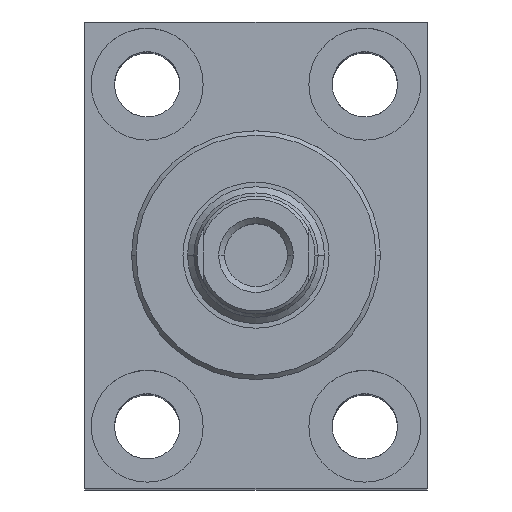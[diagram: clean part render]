
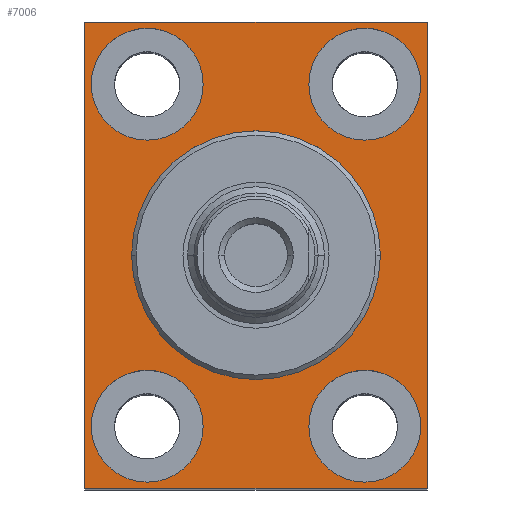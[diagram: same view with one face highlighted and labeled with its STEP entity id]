
A CAD part, top view. The second image highlights one B-rep face of the part: STEP entity #7006.
In plain terms, the highlighted planar face has unit normal (0, 0, 1).
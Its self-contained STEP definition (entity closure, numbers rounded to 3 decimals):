
#27 = DIRECTION ( 'NONE',  ( -1., 0., 0. ) ) ;
#77 = CARTESIAN_POINT ( 'NONE',  ( 17.5, 27.5, -10. ) ) ;
#93 = ORIENTED_EDGE ( 'NONE', *, *, #2408, .T. ) ;
#196 = CARTESIAN_POINT ( 'NONE',  ( 0., 0., -10. ) ) ;
#288 = CIRCLE ( 'NONE', #4810, 20.001 ) ;
#325 = AXIS2_PLACEMENT_3D ( 'NONE', #4547, #904, #1532 ) ;
#331 = PLANE ( 'NONE',  #3445 ) ;
#461 = DIRECTION ( 'NONE',  ( 0., 0., -1. ) ) ;
#817 = FACE_BOUND ( 'NONE', #6355, .T. ) ;
#886 = CARTESIAN_POINT ( 'NONE',  ( -27.5, -37.5, -10. ) ) ;
#895 = DIRECTION ( 'NONE',  ( 0., 0., 1. ) ) ;
#904 = DIRECTION ( 'NONE',  ( 0., 0., -1. ) ) ;
#936 = EDGE_LOOP ( 'NONE', ( #6145, #2790, #3048, #1228 ) ) ;
#945 = EDGE_CURVE ( 'NONE', #5625, #7721, #7642, .T. ) ;
#955 = EDGE_CURVE ( 'NONE', #7721, #7233, #1553, .T. ) ;
#980 = FACE_BOUND ( 'NONE', #2528, .T. ) ;
#1218 = EDGE_CURVE ( 'NONE', #4924, #6770, #288, .T. ) ;
#1228 = ORIENTED_EDGE ( 'NONE', *, *, #1765, .T. ) ;
#1250 = EDGE_LOOP ( 'NONE', ( #93, #6008 ) ) ;
#1290 = VERTEX_POINT ( 'NONE', #4598 ) ;
#1294 = CARTESIAN_POINT ( 'NONE',  ( -26.5, 27.5, -10. ) ) ;
#1382 = DIRECTION ( 'NONE',  ( -1., 0., 0. ) ) ;
#1455 = AXIS2_PLACEMENT_3D ( 'NONE', #1684, #4150, #27 ) ;
#1532 = DIRECTION ( 'NONE',  ( -1., 0., 0. ) ) ;
#1553 = LINE ( 'NONE', #886, #3633 ) ;
#1674 = CARTESIAN_POINT ( 'NONE',  ( -17.5, -27.5, -10. ) ) ;
#1684 = CARTESIAN_POINT ( 'NONE',  ( 17.5, 27.5, -10. ) ) ;
#1747 = CIRCLE ( 'NONE', #325, 9. ) ;
#1765 = EDGE_CURVE ( 'NONE', #2883, #5625, #5133, .T. ) ;
#1851 = DIRECTION ( 'NONE',  ( -1., 0., 0. ) ) ;
#1911 = CARTESIAN_POINT ( 'NONE',  ( 26.5, -27.5, -10. ) ) ;
#2219 = ORIENTED_EDGE ( 'NONE', *, *, #3871, .T. ) ;
#2263 = CIRCLE ( 'NONE', #4200, 9. ) ;
#2367 = CARTESIAN_POINT ( 'NONE',  ( 0., 0., -10. ) ) ;
#2375 = VERTEX_POINT ( 'NONE', #3210 ) ;
#2396 = CARTESIAN_POINT ( 'NONE',  ( -20.001, 0., -10. ) ) ;
#2408 = EDGE_CURVE ( 'NONE', #5052, #3250, #2854, .T. ) ;
#2483 = ORIENTED_EDGE ( 'NONE', *, *, #5969, .T. ) ;
#2528 = EDGE_LOOP ( 'NONE', ( #7717, #3653 ) ) ;
#2669 = CARTESIAN_POINT ( 'NONE',  ( 8.5, 27.5, -10. ) ) ;
#2721 = EDGE_CURVE ( 'NONE', #2375, #5967, #5948, .T. ) ;
#2737 = VECTOR ( 'NONE', #3914, 1000. ) ;
#2790 = ORIENTED_EDGE ( 'NONE', *, *, #955, .T. ) ;
#2807 = CARTESIAN_POINT ( 'NONE',  ( 0., 0., -10. ) ) ;
#2854 = CIRCLE ( 'NONE', #5563, 9. ) ;
#2883 = VERTEX_POINT ( 'NONE', #3389 ) ;
#2908 = CIRCLE ( 'NONE', #4324, 9. ) ;
#3025 = AXIS2_PLACEMENT_3D ( 'NONE', #2367, #6003, #3679 ) ;
#3048 = ORIENTED_EDGE ( 'NONE', *, *, #5438, .T. ) ;
#3119 = VERTEX_POINT ( 'NONE', #1911 ) ;
#3177 = CARTESIAN_POINT ( 'NONE',  ( 27.5, -37.5, -10. ) ) ;
#3210 = CARTESIAN_POINT ( 'NONE',  ( 26.5, 27.5, -10. ) ) ;
#3241 = DIRECTION ( 'NONE',  ( 0., 0., -1. ) ) ;
#3250 = VERTEX_POINT ( 'NONE', #7548 ) ;
#3323 = CARTESIAN_POINT ( 'NONE',  ( -17.5, 27.5, -10. ) ) ;
#3389 = CARTESIAN_POINT ( 'NONE',  ( 27.5, 37.5, -10. ) ) ;
#3401 = CIRCLE ( 'NONE', #4296, 9. ) ;
#3445 = AXIS2_PLACEMENT_3D ( 'NONE', #2807, #895, #3947 ) ;
#3483 = DIRECTION ( 'NONE',  ( 0., -1., 0. ) ) ;
#3587 = CARTESIAN_POINT ( 'NONE',  ( 20.001, 0., -10. ) ) ;
#3633 = VECTOR ( 'NONE', #5820, 1000. ) ;
#3653 = ORIENTED_EDGE ( 'NONE', *, *, #1218, .T. ) ;
#3673 = CARTESIAN_POINT ( 'NONE',  ( 17.5, -27.5, -10. ) ) ;
#3679 = DIRECTION ( 'NONE',  ( -1., 0., 0. ) ) ;
#3871 = EDGE_CURVE ( 'NONE', #4894, #3119, #3401, .T. ) ;
#3914 = DIRECTION ( 'NONE',  ( -1., 0., 0. ) ) ;
#3947 = DIRECTION ( 'NONE',  ( 1., 0., 0. ) ) ;
#3989 = FACE_BOUND ( 'NONE', #7191, .T. ) ;
#4004 = CARTESIAN_POINT ( 'NONE',  ( -26.5, -27.5, -10. ) ) ;
#4150 = DIRECTION ( 'NONE',  ( 0., 0., -1. ) ) ;
#4200 = AXIS2_PLACEMENT_3D ( 'NONE', #1674, #461, #7941 ) ;
#4251 = EDGE_CURVE ( 'NONE', #3119, #4894, #4562, .T. ) ;
#4296 = AXIS2_PLACEMENT_3D ( 'NONE', #6739, #7471, #1382 ) ;
#4303 = DIRECTION ( 'NONE',  ( -1., 0., 0. ) ) ;
#4324 = AXIS2_PLACEMENT_3D ( 'NONE', #77, #3241, #7525 ) ;
#4399 = CARTESIAN_POINT ( 'NONE',  ( -17.5, 27.5, -10. ) ) ;
#4511 = ORIENTED_EDGE ( 'NONE', *, *, #2721, .T. ) ;
#4547 = CARTESIAN_POINT ( 'NONE',  ( -17.5, -27.5, -10. ) ) ;
#4562 = CIRCLE ( 'NONE', #7862, 9. ) ;
#4598 = CARTESIAN_POINT ( 'NONE',  ( -8.5, -27.5, -10. ) ) ;
#4635 = VECTOR ( 'NONE', #3483, 1000. ) ;
#4810 = AXIS2_PLACEMENT_3D ( 'NONE', #196, #7362, #1851 ) ;
#4862 = EDGE_CURVE ( 'NONE', #3250, #5052, #6503, .T. ) ;
#4894 = VERTEX_POINT ( 'NONE', #6964 ) ;
#4924 = VERTEX_POINT ( 'NONE', #3587 ) ;
#4944 = CARTESIAN_POINT ( 'NONE',  ( 27.5, -37.5, -10. ) ) ;
#5052 = VERTEX_POINT ( 'NONE', #1294 ) ;
#5133 = LINE ( 'NONE', #7692, #2737 ) ;
#5407 = ORIENTED_EDGE ( 'NONE', *, *, #4251, .T. ) ;
#5438 = EDGE_CURVE ( 'NONE', #7233, #2883, #7569, .T. ) ;
#5563 = AXIS2_PLACEMENT_3D ( 'NONE', #4399, #6849, #5623 ) ;
#5623 = DIRECTION ( 'NONE',  ( -1., 0., 0. ) ) ;
#5625 = VERTEX_POINT ( 'NONE', #7119 ) ;
#5750 = DIRECTION ( 'NONE',  ( 0., 1., 0. ) ) ;
#5815 = EDGE_LOOP ( 'NONE', ( #6155, #6703 ) ) ;
#5820 = DIRECTION ( 'NONE',  ( 1., 0., 0. ) ) ;
#5832 = FACE_OUTER_BOUND ( 'NONE', #936, .T. ) ;
#5872 = FACE_BOUND ( 'NONE', #1250, .T. ) ;
#5921 = DIRECTION ( 'NONE',  ( -1., 0., 0. ) ) ;
#5948 = CIRCLE ( 'NONE', #1455, 9. ) ;
#5967 = VERTEX_POINT ( 'NONE', #2669 ) ;
#5969 = EDGE_CURVE ( 'NONE', #5967, #2375, #2908, .T. ) ;
#5983 = AXIS2_PLACEMENT_3D ( 'NONE', #3323, #7628, #5921 ) ;
#6003 = DIRECTION ( 'NONE',  ( 0., 0., -1. ) ) ;
#6008 = ORIENTED_EDGE ( 'NONE', *, *, #4862, .T. ) ;
#6145 = ORIENTED_EDGE ( 'NONE', *, *, #945, .T. ) ;
#6155 = ORIENTED_EDGE ( 'NONE', *, *, #7864, .T. ) ;
#6256 = VECTOR ( 'NONE', #5750, 1000. ) ;
#6355 = EDGE_LOOP ( 'NONE', ( #2219, #5407 ) ) ;
#6435 = CARTESIAN_POINT ( 'NONE',  ( -27.5, 37.5, -10. ) ) ;
#6443 = FACE_BOUND ( 'NONE', #5815, .T. ) ;
#6495 = EDGE_CURVE ( 'NONE', #1290, #7313, #1747, .T. ) ;
#6503 = CIRCLE ( 'NONE', #5983, 9. ) ;
#6526 = CARTESIAN_POINT ( 'NONE',  ( -27.5, -37.5, -10. ) ) ;
#6623 = CIRCLE ( 'NONE', #3025, 20.001 ) ;
#6703 = ORIENTED_EDGE ( 'NONE', *, *, #6495, .T. ) ;
#6739 = CARTESIAN_POINT ( 'NONE',  ( 17.5, -27.5, -10. ) ) ;
#6770 = VERTEX_POINT ( 'NONE', #2396 ) ;
#6849 = DIRECTION ( 'NONE',  ( 0., 0., -1. ) ) ;
#6964 = CARTESIAN_POINT ( 'NONE',  ( 8.5, -27.5, -10. ) ) ;
#7006 = ADVANCED_FACE ( 'NONE', ( #980, #5872, #3989, #817, #6443, #5832 ), #331, .T. ) ;
#7119 = CARTESIAN_POINT ( 'NONE',  ( -27.5, 37.5, -10. ) ) ;
#7191 = EDGE_LOOP ( 'NONE', ( #2483, #4511 ) ) ;
#7233 = VERTEX_POINT ( 'NONE', #4944 ) ;
#7313 = VERTEX_POINT ( 'NONE', #4004 ) ;
#7342 = DIRECTION ( 'NONE',  ( 0., 0., -1. ) ) ;
#7362 = DIRECTION ( 'NONE',  ( 0., 0., -1. ) ) ;
#7434 = EDGE_CURVE ( 'NONE', #6770, #4924, #6623, .T. ) ;
#7471 = DIRECTION ( 'NONE',  ( 0., 0., -1. ) ) ;
#7525 = DIRECTION ( 'NONE',  ( -1., 0., 0. ) ) ;
#7548 = CARTESIAN_POINT ( 'NONE',  ( -8.5, 27.5, -10. ) ) ;
#7569 = LINE ( 'NONE', #3177, #6256 ) ;
#7628 = DIRECTION ( 'NONE',  ( 0., 0., -1. ) ) ;
#7642 = LINE ( 'NONE', #6435, #4635 ) ;
#7692 = CARTESIAN_POINT ( 'NONE',  ( 27.5, 37.5, -10. ) ) ;
#7717 = ORIENTED_EDGE ( 'NONE', *, *, #7434, .T. ) ;
#7721 = VERTEX_POINT ( 'NONE', #6526 ) ;
#7862 = AXIS2_PLACEMENT_3D ( 'NONE', #3673, #7342, #4303 ) ;
#7864 = EDGE_CURVE ( 'NONE', #7313, #1290, #2263, .T. ) ;
#7941 = DIRECTION ( 'NONE',  ( -1., 0., 0. ) ) ;
